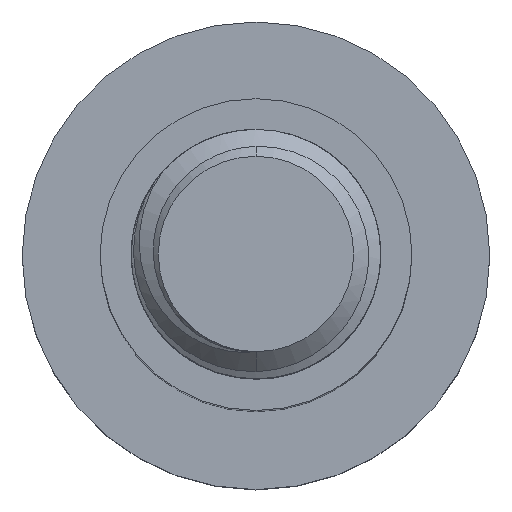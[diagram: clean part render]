
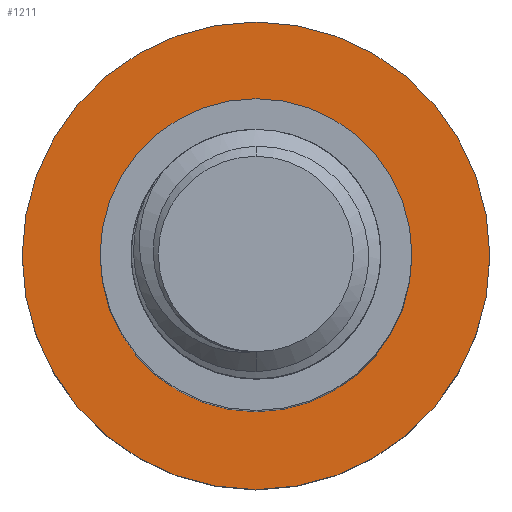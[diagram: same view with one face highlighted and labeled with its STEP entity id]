
A CAD part, top view. The second image highlights one B-rep face of the part: STEP entity #1211.
In plain terms, the highlighted planar face has unit normal (0, 0, 1).
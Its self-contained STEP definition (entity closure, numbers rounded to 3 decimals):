
#56 = FACE_OUTER_BOUND ( 'NONE', #494, .T. ) ;
#422 = ORIENTED_EDGE ( 'NONE', *, *, #2413, .T. ) ;
#494 = EDGE_LOOP ( 'NONE', ( #4000, #4805 ) ) ;
#607 = AXIS2_PLACEMENT_3D ( 'NONE', #3656, #1941, #4142 ) ;
#752 = CARTESIAN_POINT ( 'NONE',  ( 0., 0., -45. ) ) ;
#821 = CARTESIAN_POINT ( 'NONE',  ( 0., 0., -45. ) ) ;
#928 = VERTEX_POINT ( 'NONE', #2089 ) ;
#952 = DIRECTION ( 'NONE',  ( -1., 0., 0. ) ) ;
#1101 = CARTESIAN_POINT ( 'NONE',  ( 15., 0., -45. ) ) ;
#1211 = ADVANCED_FACE ( 'NONE', ( #1836, #56 ), #1431, .F. ) ;
#1431 = PLANE ( 'NONE',  #2068 ) ;
#1705 = EDGE_CURVE ( 'NONE', #1778, #2623, #5683, .T. ) ;
#1771 = ORIENTED_EDGE ( 'NONE', *, *, #2736, .T. ) ;
#1778 = VERTEX_POINT ( 'NONE', #5460 ) ;
#1836 = FACE_BOUND ( 'NONE', #4702, .T. ) ;
#1842 = DIRECTION ( 'NONE',  ( -1., 0., 0. ) ) ;
#1941 = DIRECTION ( 'NONE',  ( 0., 0., -1. ) ) ;
#2068 = AXIS2_PLACEMENT_3D ( 'NONE', #2703, #4063, #5326 ) ;
#2079 = CIRCLE ( 'NONE', #5400, 10. ) ;
#2089 = CARTESIAN_POINT ( 'NONE',  ( 10., 0., -45. ) ) ;
#2228 = VERTEX_POINT ( 'NONE', #5682 ) ;
#2233 = DIRECTION ( 'NONE',  ( -1., 0., 0. ) ) ;
#2360 = AXIS2_PLACEMENT_3D ( 'NONE', #821, #3976, #2233 ) ;
#2413 = EDGE_CURVE ( 'NONE', #928, #2228, #2079, .T. ) ;
#2623 = VERTEX_POINT ( 'NONE', #1101 ) ;
#2703 = CARTESIAN_POINT ( 'NONE',  ( 0., 0., -45. ) ) ;
#2736 = EDGE_CURVE ( 'NONE', #2228, #928, #5487, .T. ) ;
#3288 = CIRCLE ( 'NONE', #4033, 15. ) ;
#3656 = CARTESIAN_POINT ( 'NONE',  ( 0., 0., -45. ) ) ;
#3976 = DIRECTION ( 'NONE',  ( 0., 0., -1. ) ) ;
#3988 = DIRECTION ( 'NONE',  ( 0., 0., -1. ) ) ;
#4000 = ORIENTED_EDGE ( 'NONE', *, *, #4499, .F. ) ;
#4033 = AXIS2_PLACEMENT_3D ( 'NONE', #752, #4474, #952 ) ;
#4063 = DIRECTION ( 'NONE',  ( 0., 0., -1. ) ) ;
#4142 = DIRECTION ( 'NONE',  ( -1., 0., 0. ) ) ;
#4418 = CARTESIAN_POINT ( 'NONE',  ( 0., 0., -45. ) ) ;
#4474 = DIRECTION ( 'NONE',  ( 0., 0., -1. ) ) ;
#4499 = EDGE_CURVE ( 'NONE', #2623, #1778, #3288, .T. ) ;
#4702 = EDGE_LOOP ( 'NONE', ( #1771, #422 ) ) ;
#4805 = ORIENTED_EDGE ( 'NONE', *, *, #1705, .F. ) ;
#5326 = DIRECTION ( 'NONE',  ( -1., 0., 0. ) ) ;
#5400 = AXIS2_PLACEMENT_3D ( 'NONE', #4418, #3988, #1842 ) ;
#5460 = CARTESIAN_POINT ( 'NONE',  ( -15., 0., -45. ) ) ;
#5487 = CIRCLE ( 'NONE', #2360, 10. ) ;
#5682 = CARTESIAN_POINT ( 'NONE',  ( -10., 0., -45. ) ) ;
#5683 = CIRCLE ( 'NONE', #607, 15. ) ;
